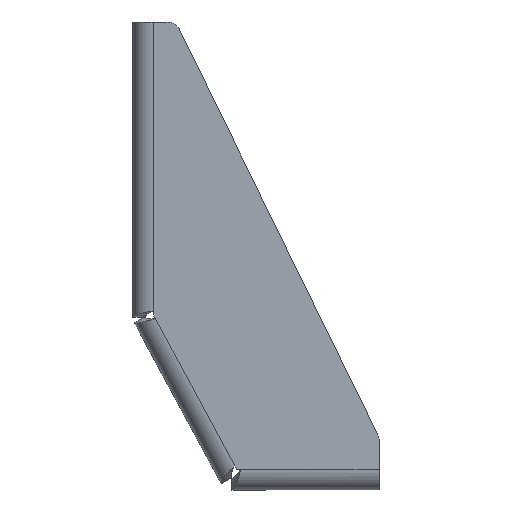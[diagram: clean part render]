
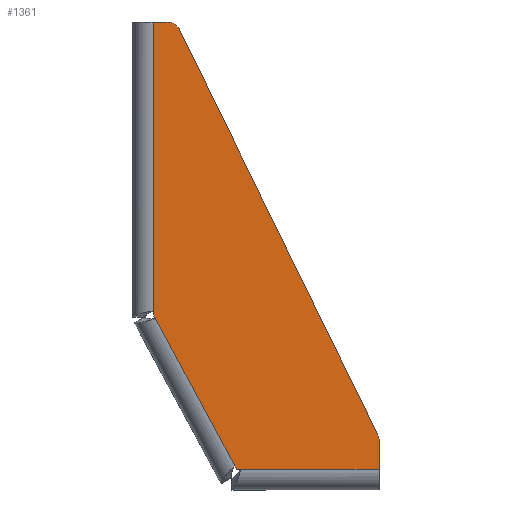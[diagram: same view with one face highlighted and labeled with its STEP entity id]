
A CAD part, top view. The second image highlights one B-rep face of the part: STEP entity #1361.
In plain terms, the highlighted planar face has unit normal (0, 0, 1).
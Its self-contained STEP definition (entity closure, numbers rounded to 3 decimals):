
#42 = EDGE_CURVE ( 'NONE', #1360, #1683, #402, .T. ) ;
#45 = VERTEX_POINT ( 'NONE', #1740 ) ;
#75 = CARTESIAN_POINT ( 'NONE',  ( 0., 0., 0. ) ) ;
#105 = VERTEX_POINT ( 'NONE', #1007 ) ;
#130 = DIRECTION ( 'NONE',  ( -1., 0., 0. ) ) ;
#145 = ORIENTED_EDGE ( 'NONE', *, *, #760, .T. ) ;
#148 = CARTESIAN_POINT ( 'NONE',  ( 4.5, 110., 0. ) ) ;
#172 = EDGE_CURVE ( 'NONE', #1487, #396, #1351, .T. ) ;
#175 = CARTESIAN_POINT ( 'NONE',  ( 59.694, 8.625, 0. ) ) ;
#193 = CIRCLE ( 'NONE', #1724, 3. ) ;
#212 = CARTESIAN_POINT ( 'NONE',  ( 25., 0., 0. ) ) ;
#215 = CARTESIAN_POINT ( 'NONE',  ( 60., 7.304, 0. ) ) ;
#218 = CARTESIAN_POINT ( 'NONE',  ( 4.5, 110., 0. ) ) ;
#227 = EDGE_CURVE ( 'NONE', #1687, #259, #937, .T. ) ;
#231 = ORIENTED_EDGE ( 'NONE', *, *, #611, .T. ) ;
#240 = ORIENTED_EDGE ( 'NONE', *, *, #172, .T. ) ;
#259 = VERTEX_POINT ( 'NONE', #218 ) ;
#267 = LINE ( 'NONE', #1625, #1697 ) ;
#270 = EDGE_CURVE ( 'NONE', #542, #105, #267, .T. ) ;
#310 = EDGE_CURVE ( 'NONE', #1683, #1088, #916, .T. ) ;
#327 = CARTESIAN_POINT ( 'NONE',  ( 8.13, 110., 0. ) ) ;
#392 = CARTESIAN_POINT ( 'NONE',  ( 8.13, 107., 0. ) ) ;
#396 = VERTEX_POINT ( 'NONE', #855 ) ;
#402 = CIRCLE ( 'NONE', #1229, 3. ) ;
#408 = LINE ( 'NONE', #1582, #1465 ) ;
#427 = ORIENTED_EDGE ( 'NONE', *, *, #1556, .T. ) ;
#486 = CARTESIAN_POINT ( 'NONE',  ( 4.263, 38.44, 0. ) ) ;
#503 = PLANE ( 'NONE',  #963 ) ;
#533 = DIRECTION ( 'NONE',  ( 1., 0., 0. ) ) ;
#539 = CARTESIAN_POINT ( 'NONE',  ( 60., 8., 0. ) ) ;
#542 = VERTEX_POINT ( 'NONE', #1335 ) ;
#588 = ORIENTED_EDGE ( 'NONE', *, *, #42, .T. ) ;
#592 = VECTOR ( 'NONE', #1403, 1000. ) ;
#611 = EDGE_CURVE ( 'NONE', #1088, #1687, #193, .T. ) ;
#623 = LINE ( 'NONE', #486, #1628 ) ;
#630 = CARTESIAN_POINT ( 'NONE',  ( 60., 0., 0. ) ) ;
#636 = DIRECTION ( 'NONE',  ( 0., -1., 0. ) ) ;
#650 = DIRECTION ( 'NONE',  ( 1., 0., 0. ) ) ;
#696 = ORIENTED_EDGE ( 'NONE', *, *, #310, .T. ) ;
#760 = EDGE_CURVE ( 'NONE', #259, #789, #1694, .T. ) ;
#767 = ORIENTED_EDGE ( 'NONE', *, *, #270, .T. ) ;
#789 = VERTEX_POINT ( 'NONE', #999 ) ;
#855 = CARTESIAN_POINT ( 'NONE',  ( 25., 0., 0. ) ) ;
#865 = ORIENTED_EDGE ( 'NONE', *, *, #1068, .T. ) ;
#916 = LINE ( 'NONE', #539, #1613 ) ;
#931 = VECTOR ( 'NONE', #636, 1000. ) ;
#937 = LINE ( 'NONE', #1795, #1631 ) ;
#963 = AXIS2_PLACEMENT_3D ( 'NONE', #75, #1466, #650 ) ;
#976 = VECTOR ( 'NONE', #1104, 1000. ) ;
#989 = VERTEX_POINT ( 'NONE', #630 ) ;
#999 = CARTESIAN_POINT ( 'NONE',  ( 4.5, 39., 0. ) ) ;
#1007 = CARTESIAN_POINT ( 'NONE',  ( 4.975, 37.12, 0. ) ) ;
#1010 = FACE_OUTER_BOUND ( 'NONE', #1666, .T. ) ;
#1019 = LINE ( 'NONE', #1302, #931 ) ;
#1047 = CARTESIAN_POINT ( 'NONE',  ( 10.823, 108.32, 0. ) ) ;
#1056 = EDGE_CURVE ( 'NONE', #789, #542, #1019, .T. ) ;
#1068 = EDGE_CURVE ( 'NONE', #105, #1487, #623, .T. ) ;
#1079 = DIRECTION ( 'NONE',  ( 0.475, -0.88, 0. ) ) ;
#1088 = VERTEX_POINT ( 'NONE', #1047 ) ;
#1092 = EDGE_CURVE ( 'NONE', #396, #45, #1394, .T. ) ;
#1104 = DIRECTION ( 'NONE',  ( 0.475, -0.88, 0. ) ) ;
#1124 = DIRECTION ( 'NONE',  ( 0., -1., 0. ) ) ;
#1178 = DIRECTION ( 'NONE',  ( 0., 0., 1. ) ) ;
#1229 = AXIS2_PLACEMENT_3D ( 'NONE', #1317, #1178, #1458 ) ;
#1302 = CARTESIAN_POINT ( 'NONE',  ( 4.5, 110., 0. ) ) ;
#1305 = ORIENTED_EDGE ( 'NONE', *, *, #1056, .T. ) ;
#1311 = EDGE_CURVE ( 'NONE', #989, #1360, #408, .T. ) ;
#1317 = CARTESIAN_POINT ( 'NONE',  ( 57., 7.304, 0. ) ) ;
#1319 = DIRECTION ( 'NONE',  ( 1., 0., 0. ) ) ;
#1335 = CARTESIAN_POINT ( 'NONE',  ( 4.5, 38., 0. ) ) ;
#1351 = LINE ( 'NONE', #1789, #976 ) ;
#1356 = DIRECTION ( 'NONE',  ( 0., 0., 1. ) ) ;
#1360 = VERTEX_POINT ( 'NONE', #215 ) ;
#1361 = ADVANCED_FACE ( 'NONE', ( #1010 ), #503, .T. ) ;
#1362 = LINE ( 'NONE', #1536, #592 ) ;
#1373 = ORIENTED_EDGE ( 'NONE', *, *, #1092, .T. ) ;
#1394 = LINE ( 'NONE', #212, #1768 ) ;
#1403 = DIRECTION ( 'NONE',  ( 1., 0., 0. ) ) ;
#1409 = VECTOR ( 'NONE', #1124, 1000. ) ;
#1458 = DIRECTION ( 'NONE',  ( 1., 0., 0. ) ) ;
#1465 = VECTOR ( 'NONE', #1589, 1000. ) ;
#1466 = DIRECTION ( 'NONE',  ( 0., 0., 1. ) ) ;
#1487 = VERTEX_POINT ( 'NONE', #1517 ) ;
#1517 = CARTESIAN_POINT ( 'NONE',  ( 24.525, 0.88, 0. ) ) ;
#1536 = CARTESIAN_POINT ( 'NONE',  ( 23.85, 0., 0. ) ) ;
#1556 = EDGE_CURVE ( 'NONE', #45, #989, #1362, .T. ) ;
#1582 = CARTESIAN_POINT ( 'NONE',  ( 60., 0., 0. ) ) ;
#1584 = DIRECTION ( 'NONE',  ( 0.475, -0.88, 0. ) ) ;
#1589 = DIRECTION ( 'NONE',  ( 0., 1., 0. ) ) ;
#1599 = ORIENTED_EDGE ( 'NONE', *, *, #227, .T. ) ;
#1613 = VECTOR ( 'NONE', #1638, 1000. ) ;
#1625 = CARTESIAN_POINT ( 'NONE',  ( 4.5, 38., 0. ) ) ;
#1628 = VECTOR ( 'NONE', #1584, 1000. ) ;
#1631 = VECTOR ( 'NONE', #130, 1000. ) ;
#1638 = DIRECTION ( 'NONE',  ( -0.44, 0.898, 0. ) ) ;
#1666 = EDGE_LOOP ( 'NONE', ( #1735, #588, #696, #231, #1599, #145, #1305, #767, #865, #240, #1373, #427 ) ) ;
#1683 = VERTEX_POINT ( 'NONE', #175 ) ;
#1687 = VERTEX_POINT ( 'NONE', #327 ) ;
#1694 = LINE ( 'NONE', #148, #1409 ) ;
#1697 = VECTOR ( 'NONE', #1079, 1000. ) ;
#1724 = AXIS2_PLACEMENT_3D ( 'NONE', #392, #1356, #533 ) ;
#1735 = ORIENTED_EDGE ( 'NONE', *, *, #1311, .T. ) ;
#1740 = CARTESIAN_POINT ( 'NONE',  ( 26., 0., 0. ) ) ;
#1768 = VECTOR ( 'NONE', #1319, 1000. ) ;
#1789 = CARTESIAN_POINT ( 'NONE',  ( 4.5, 38., 0. ) ) ;
#1795 = CARTESIAN_POINT ( 'NONE',  ( 10., 110., 0. ) ) ;
